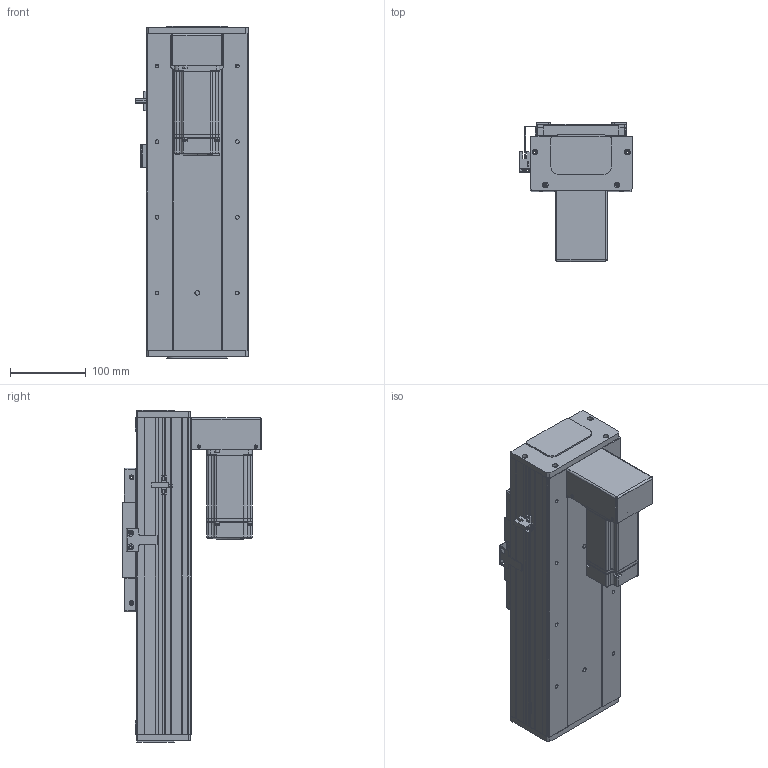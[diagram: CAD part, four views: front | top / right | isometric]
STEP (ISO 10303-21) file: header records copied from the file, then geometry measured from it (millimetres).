
FILE_DESCRIPTION (( 'STEP AP203' ), '1' );
FILE_NAME ('RY140F-L2020-300-BK.SLDASM_150.step', '2021-03-02T08:26:26', ( '盈信电脑' ), ( '东莞市道滘镇水果街19号' ), 'SwSTEP 2.0', 'SolidWorks 2012', '' );
FILE_SCHEMA (( 'CONFIG_CONTROL_DESIGN' ));
Products named in the file (21): RY140F-L2020-300-BK.SLDASM_150; RY140F-直连型材铝滑块(16丝杆); 滅袉蝶18-10; RY140F-狟殏萇儂欶(400W); RY140F-狟殏萇儂啣(400W M5); RY140F-詩湍嘐隅輸; 覜茼ん672; RY140F-詩湍揤え; RY140F-672覜茼んえ; 侐源滅袉蝶; RY100F-詩湍揤踡謫; 15; 侂狟400W侜督萇儂; RY140F-后盖板(铝件）; 藻笠沭; RY140F-滅鳥奻裔; RY140F-詩湍幗謫粣; RY140F-直连型材铝滑块连接座; RY140F-300-BK蛌殏詩湍_150; RY140F-300-BK倰第奻裔啣_150; RY140F-300-BK倰第菁釱_150
Assembly tree (26 placements, depth 3):
  RY140F-L2020-300-BK.SLDASM_150
    RY140F-300-BK倰第菁釱_150
    RY140F-300-BK倰第奻裔啣_150  x2
    RY140F-300-BK蛌殏詩湍_150
    RY140F-直连型材铝滑块连接座
    RY140F-滅鳥奻裔
    RY140F-詩湍幗謫粣
    藻笠沭  x2
    RY100F-詩湍揤踡謫
    RY140F-后盖板(铝件）  x2
    侂狟400W侜督萇儂
      15
    覜茼ん672
    RY140F-672覜茼んえ
    RY140F-詩湍揤え  x2
    侐源滅袉蝶  x2
    RY140F-狟殏萇儂啣(400W M5)
    RY140F-狟殏萇儂欶(400W)
    RY140F-詩湍嘐隅輸
    滅袉蝶18-10  x2
    RY140F-直连型材铝滑块(16丝杆)
Bounding box: 148.7 x 184.5 x 439 mm (x, y, z)
Volume: 2302493.7 mm3; surface area: 799366.1 mm2
Topology: 25 solids, 25 shells, 1924 faces, 5276 edges, 3388 vertices
Faces by surface type: cylinder 919, plane 811, cone 168, bspline 22, torus 4
Entity records: 60852 total; most frequent: CARTESIAN_POINT 12923, DIRECTION 9615, ORIENTED_EDGE 9444, EDGE_CURVE 4722, AXIS2_PLACEMENT_3D 3408, VERTEX_POINT 3092, VECTOR 2799, LINE 2799
